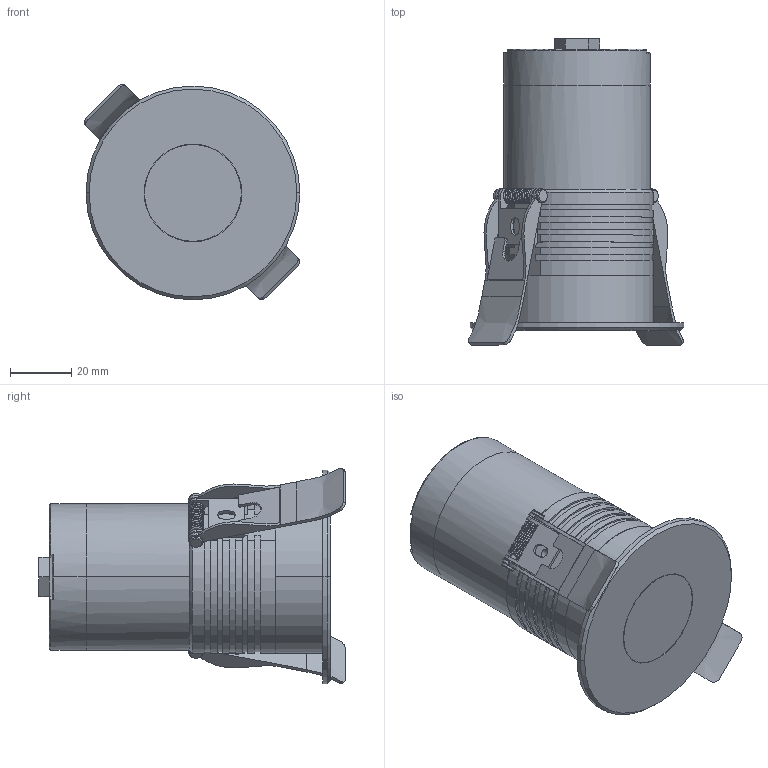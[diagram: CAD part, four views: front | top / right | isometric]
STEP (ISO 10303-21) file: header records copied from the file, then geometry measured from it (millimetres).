
FILE_DESCRIPTION((''),'2;1');
FILE_NAME('R2IR0125_A_065__ASM','2025-03-11T',('Administrator'),(''),'CREO PARAMETRIC BY PTC INC, 2014190','CREO PARAMETRIC BY PTC INC, 2014190','');
FILE_SCHEMA(('CONFIG_CONTROL_DESIGN'));
Length unit declared in the file: millimetre
Products named in the file (18): 2I__2; HOUGAI_2; MIANGAI_2; MUZUHE_2; 12A_1_114_2; 2I-0_2; 0-RING_2; 2I-1_2; YATAO_2; BOLI-0_2; R7_2; ASM0001_ASM_2_ASM; CHANGJIA_10; XIAJIA_10; XIAOZI_8; TANGHUANG_6; THJIA_ASM_10_ASM; R2IR0125_A_065__ASM
Assembly tree (18 placements, depth 3):
  R2IR0125_A_065__ASM
    ASM0001_ASM_2_ASM
      2I__2
      HOUGAI_2
      MIANGAI_2
      MUZUHE_2
      12A_1_114_2
      2I-0_2
      0-RING_2
      2I-1_2
      YATAO_2
      BOLI-0_2
      R7_2
    THJIA_ASM_10_ASM  x2
      CHANGJIA_10
      XIAJIA_10
      XIAOZI_8
      TANGHUANG_6
Bounding box: 70.62 x 100.34 x 70.61 mm (x, y, z)
Volume: 103764 mm3; surface area: 72404 mm2
Topology: 19 solids, 19 shells, 363 faces, 964 edges, 656 vertices
Faces by surface type: cylinder 160, plane 145, cone 24, bspline 16, extrusion 10, torus 8
Entity records: 15614 total; most frequent: CARTESIAN_POINT 7815, DIRECTION 1707, ORIENTED_EDGE 1492, EDGE_CURVE 746, AXIS2_PLACEMENT_3D 683, VERTEX_POINT 506, CIRCLE 360, VECTOR 341
